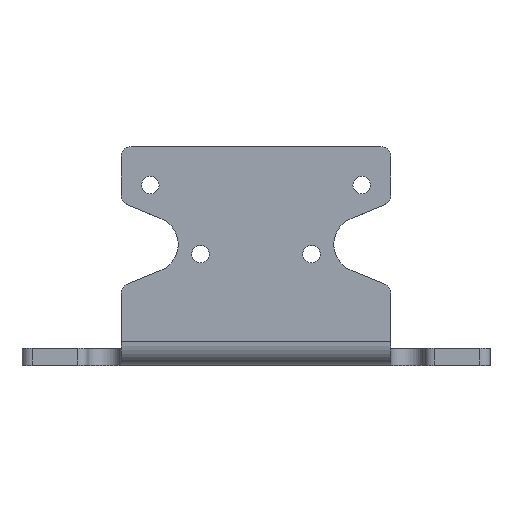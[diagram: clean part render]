
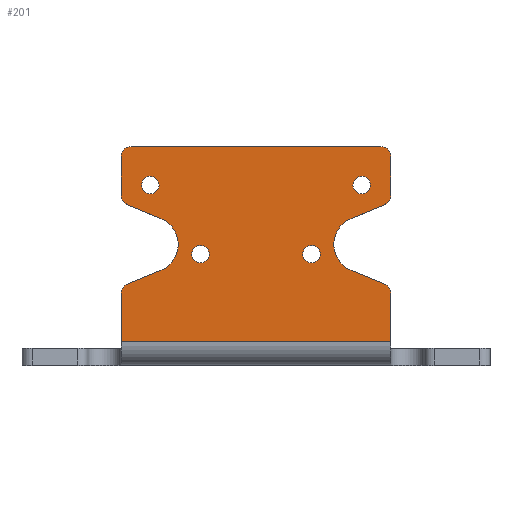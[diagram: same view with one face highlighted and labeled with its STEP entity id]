
A CAD part, top view. The second image highlights one B-rep face of the part: STEP entity #201.
In plain terms, the highlighted planar face has unit normal (0, 0, 1).
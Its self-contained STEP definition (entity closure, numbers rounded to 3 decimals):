
#86=FACE_BOUND('',#357,.T.);
#87=FACE_BOUND('',#358,.T.);
#88=FACE_BOUND('',#359,.T.);
#89=FACE_BOUND('',#360,.T.);
#90=FACE_BOUND('',#361,.T.);
#128=CIRCLE('',#1382,2.6);
#129=CIRCLE('',#1383,2.6);
#130=CIRCLE('',#1384,2.6);
#131=CIRCLE('',#1385,2.6);
#132=CIRCLE('',#1386,3.);
#133=CIRCLE('',#1387,3.);
#134=CIRCLE('',#1388,8.3);
#135=CIRCLE('',#1389,3.);
#136=CIRCLE('',#1390,3.);
#137=CIRCLE('',#1391,3.);
#138=CIRCLE('',#1392,3.);
#139=CIRCLE('',#1393,8.3);
#201=ADVANCED_FACE('',(#86,#87,#88,#89,#90),#270,.F.);
#270=PLANE('',#1394);
#357=EDGE_LOOP('',(#458));
#358=EDGE_LOOP('',(#459));
#359=EDGE_LOOP('',(#460));
#360=EDGE_LOOP('',(#461));
#361=EDGE_LOOP('',(#462,#463,#464,#465,#466,#467,#468,#469,#470,#471,#472,
#473,#474,#475,#476,#477,#478,#479));
#458=ORIENTED_EDGE('',*,*,#964,.T.);
#459=ORIENTED_EDGE('',*,*,#965,.T.);
#460=ORIENTED_EDGE('',*,*,#966,.T.);
#461=ORIENTED_EDGE('',*,*,#967,.T.);
#462=ORIENTED_EDGE('',*,*,#968,.T.);
#463=ORIENTED_EDGE('',*,*,#969,.T.);
#464=ORIENTED_EDGE('',*,*,#970,.F.);
#465=ORIENTED_EDGE('',*,*,#971,.T.);
#466=ORIENTED_EDGE('',*,*,#972,.F.);
#467=ORIENTED_EDGE('',*,*,#973,.T.);
#468=ORIENTED_EDGE('',*,*,#974,.F.);
#469=ORIENTED_EDGE('',*,*,#975,.T.);
#470=ORIENTED_EDGE('',*,*,#976,.F.);
#471=ORIENTED_EDGE('',*,*,#977,.T.);
#472=ORIENTED_EDGE('',*,*,#978,.F.);
#473=ORIENTED_EDGE('',*,*,#979,.T.);
#474=ORIENTED_EDGE('',*,*,#980,.F.);
#475=ORIENTED_EDGE('',*,*,#981,.T.);
#476=ORIENTED_EDGE('',*,*,#962,.F.);
#477=ORIENTED_EDGE('',*,*,#982,.T.);
#478=ORIENTED_EDGE('',*,*,#983,.T.);
#479=ORIENTED_EDGE('',*,*,#984,.T.);
#832=VERTEX_POINT('',#1930);
#833=VERTEX_POINT('',#1932);
#834=VERTEX_POINT('',#1936);
#835=VERTEX_POINT('',#1938);
#836=VERTEX_POINT('',#1940);
#837=VERTEX_POINT('',#1942);
#838=VERTEX_POINT('',#1944);
#839=VERTEX_POINT('',#1945);
#840=VERTEX_POINT('',#1947);
#841=VERTEX_POINT('',#1949);
#842=VERTEX_POINT('',#1951);
#843=VERTEX_POINT('',#1953);
#844=VERTEX_POINT('',#1955);
#845=VERTEX_POINT('',#1957);
#846=VERTEX_POINT('',#1959);
#847=VERTEX_POINT('',#1961);
#848=VERTEX_POINT('',#1963);
#849=VERTEX_POINT('',#1965);
#850=VERTEX_POINT('',#1967);
#851=VERTEX_POINT('',#1969);
#852=VERTEX_POINT('',#1972);
#853=VERTEX_POINT('',#1974);
#962=EDGE_CURVE('',#832,#833,#1150,.T.);
#964=EDGE_CURVE('',#834,#834,#128,.T.);
#965=EDGE_CURVE('',#835,#835,#129,.T.);
#966=EDGE_CURVE('',#836,#836,#130,.T.);
#967=EDGE_CURVE('',#837,#837,#131,.T.);
#968=EDGE_CURVE('',#838,#839,#1152,.T.);
#969=EDGE_CURVE('',#839,#840,#132,.T.);
#970=EDGE_CURVE('',#841,#840,#1153,.T.);
#971=EDGE_CURVE('',#841,#842,#1154,.T.);
#972=EDGE_CURVE('',#843,#842,#1155,.T.);
#973=EDGE_CURVE('',#843,#844,#133,.T.);
#974=EDGE_CURVE('',#845,#844,#1156,.T.);
#975=EDGE_CURVE('',#845,#846,#134,.T.);
#976=EDGE_CURVE('',#847,#846,#1157,.T.);
#977=EDGE_CURVE('',#847,#848,#135,.T.);
#978=EDGE_CURVE('',#849,#848,#1158,.T.);
#979=EDGE_CURVE('',#849,#850,#136,.T.);
#980=EDGE_CURVE('',#851,#850,#1159,.T.);
#981=EDGE_CURVE('',#851,#833,#137,.T.);
#982=EDGE_CURVE('',#832,#852,#138,.T.);
#983=EDGE_CURVE('',#852,#853,#1160,.T.);
#984=EDGE_CURVE('',#853,#838,#139,.T.);
#1150=LINE('',#1931,#1266);
#1152=LINE('',#1943,#1268);
#1153=LINE('',#1948,#1269);
#1154=LINE('',#1950,#1270);
#1155=LINE('',#1952,#1271);
#1156=LINE('',#1956,#1272);
#1157=LINE('',#1960,#1273);
#1158=LINE('',#1964,#1274);
#1159=LINE('',#1968,#1275);
#1160=LINE('',#1973,#1276);
#1266=VECTOR('',#1527,1.);
#1268=VECTOR('',#1539,1.);
#1269=VECTOR('',#1542,1.);
#1270=VECTOR('',#1543,1.);
#1271=VECTOR('',#1544,1.);
#1272=VECTOR('',#1547,1.);
#1273=VECTOR('',#1550,1.);
#1274=VECTOR('',#1553,1.);
#1275=VECTOR('',#1556,1.);
#1276=VECTOR('',#1561,1.);
#1382=AXIS2_PLACEMENT_3D('',#1935,#1531,#1532);
#1383=AXIS2_PLACEMENT_3D('',#1937,#1533,#1534);
#1384=AXIS2_PLACEMENT_3D('',#1939,#1535,#1536);
#1385=AXIS2_PLACEMENT_3D('',#1941,#1537,#1538);
#1386=AXIS2_PLACEMENT_3D('',#1946,#1540,#1541);
#1387=AXIS2_PLACEMENT_3D('',#1954,#1545,#1546);
#1388=AXIS2_PLACEMENT_3D('',#1958,#1548,#1549);
#1389=AXIS2_PLACEMENT_3D('',#1962,#1551,#1552);
#1390=AXIS2_PLACEMENT_3D('',#1966,#1554,#1555);
#1391=AXIS2_PLACEMENT_3D('',#1970,#1557,#1558);
#1392=AXIS2_PLACEMENT_3D('',#1971,#1559,#1560);
#1393=AXIS2_PLACEMENT_3D('',#1975,#1562,#1563);
#1394=AXIS2_PLACEMENT_3D('',#1976,#1564,#1565);
#1527=DIRECTION('',(0.,1.,0.));
#1531=DIRECTION('',(0.,0.,-1.));
#1532=DIRECTION('',(0.,1.,0.));
#1533=DIRECTION('',(0.,0.,-1.));
#1534=DIRECTION('',(0.,1.,0.));
#1535=DIRECTION('',(0.,0.,-1.));
#1536=DIRECTION('',(0.,1.,0.));
#1537=DIRECTION('',(0.,0.,-1.));
#1538=DIRECTION('',(0.,1.,0.));
#1539=DIRECTION('',(-0.924,-0.383,0.));
#1540=DIRECTION('',(0.,0.,1.));
#1541=DIRECTION('',(0.,1.,0.));
#1542=DIRECTION('',(0.,1.,0.));
#1543=DIRECTION('',(1.,0.,0.));
#1544=DIRECTION('',(0.,-1.,0.));
#1545=DIRECTION('',(0.,0.,1.));
#1546=DIRECTION('',(0.,1.,0.));
#1547=DIRECTION('',(0.924,-0.383,0.));
#1548=DIRECTION('',(0.,0.,-1.));
#1549=DIRECTION('',(0.,1.,0.));
#1550=DIRECTION('',(-0.924,-0.383,0.));
#1551=DIRECTION('',(0.,0.,1.));
#1552=DIRECTION('',(0.,1.,0.));
#1553=DIRECTION('',(0.,-1.,0.));
#1554=DIRECTION('',(0.,0.,1.));
#1555=DIRECTION('',(0.,1.,0.));
#1556=DIRECTION('',(1.,0.,0.));
#1557=DIRECTION('',(0.,0.,1.));
#1558=DIRECTION('',(0.,1.,0.));
#1559=DIRECTION('',(0.,0.,1.));
#1560=DIRECTION('',(0.,1.,0.));
#1561=DIRECTION('',(0.924,-0.383,0.));
#1562=DIRECTION('',(0.,0.,-1.));
#1563=DIRECTION('',(0.,1.,0.));
#1564=DIRECTION('',(0.,0.,-1.));
#1565=DIRECTION('',(0.,1.,0.));
#1930=CARTESIAN_POINT('',(-40.,45.451,44.));
#1931=CARTESIAN_POINT('',(-40.,-1.534,44.));
#1932=CARTESIAN_POINT('',(-40.,57.,44.));
#1935=CARTESIAN_POINT('',(-31.4,48.505,44.));
#1936=CARTESIAN_POINT('',(-31.4,51.105,44.));
#1937=CARTESIAN_POINT('',(-16.5,28.005,44.));
#1938=CARTESIAN_POINT('',(-16.5,30.605,44.));
#1939=CARTESIAN_POINT('',(16.5,28.005,44.));
#1940=CARTESIAN_POINT('',(16.5,30.605,44.));
#1941=CARTESIAN_POINT('',(31.4,48.505,44.));
#1942=CARTESIAN_POINT('',(31.4,51.105,44.));
#1943=CARTESIAN_POINT('',(-28.224,23.232,44.));
#1944=CARTESIAN_POINT('',(-28.224,23.232,44.));
#1945=CARTESIAN_POINT('',(-38.148,19.121,44.));
#1946=CARTESIAN_POINT('',(-37.,16.349,44.));
#1947=CARTESIAN_POINT('',(-40.,16.349,44.));
#1948=CARTESIAN_POINT('',(-40.,-1.534,44.));
#1949=CARTESIAN_POINT('',(-40.,2.,44.));
#1950=CARTESIAN_POINT('',(-40.,2.,44.));
#1951=CARTESIAN_POINT('',(40.,2.,44.));
#1952=CARTESIAN_POINT('',(40.,60.,44.));
#1953=CARTESIAN_POINT('',(40.,16.349,44.));
#1954=CARTESIAN_POINT('',(37.,16.349,44.));
#1955=CARTESIAN_POINT('',(38.148,19.121,44.));
#1956=CARTESIAN_POINT('',(28.224,23.232,44.));
#1957=CARTESIAN_POINT('',(28.224,23.232,44.));
#1958=CARTESIAN_POINT('',(31.4,30.9,44.));
#1959=CARTESIAN_POINT('',(28.224,38.568,44.));
#1960=CARTESIAN_POINT('',(40.,43.446,44.));
#1961=CARTESIAN_POINT('',(38.148,42.679,44.));
#1962=CARTESIAN_POINT('',(37.,45.451,44.));
#1963=CARTESIAN_POINT('',(40.,45.451,44.));
#1964=CARTESIAN_POINT('',(40.,60.,44.));
#1965=CARTESIAN_POINT('',(40.,57.,44.));
#1966=CARTESIAN_POINT('',(37.,57.,44.));
#1967=CARTESIAN_POINT('',(37.,60.,44.));
#1968=CARTESIAN_POINT('',(-40.,60.,44.));
#1969=CARTESIAN_POINT('',(-37.,60.,44.));
#1970=CARTESIAN_POINT('',(-37.,57.,44.));
#1971=CARTESIAN_POINT('',(-37.,45.451,44.));
#1972=CARTESIAN_POINT('',(-38.148,42.679,44.));
#1973=CARTESIAN_POINT('',(-40.,43.446,44.));
#1974=CARTESIAN_POINT('',(-28.224,38.568,44.));
#1975=CARTESIAN_POINT('',(-31.4,30.9,44.));
#1976=CARTESIAN_POINT('',(0.,0.,44.));
